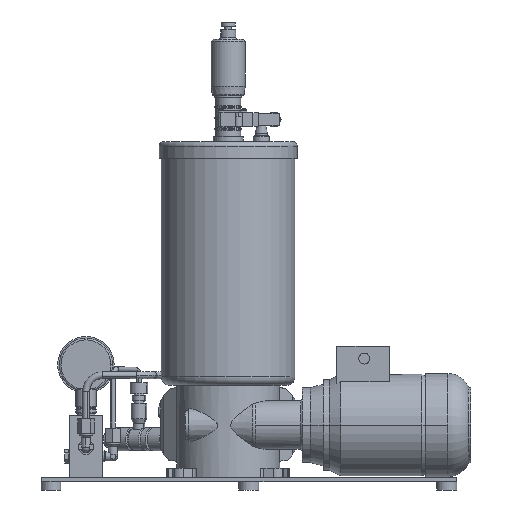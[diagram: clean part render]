
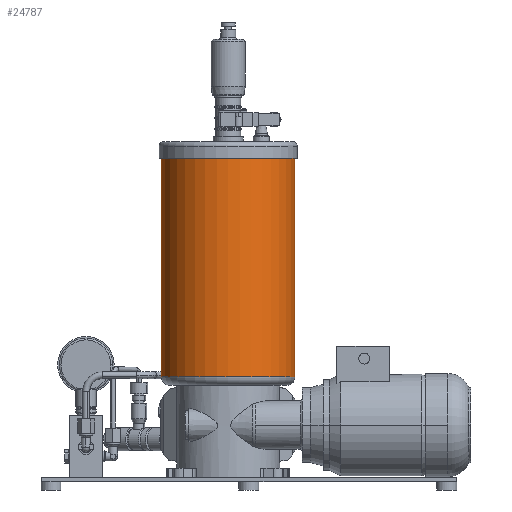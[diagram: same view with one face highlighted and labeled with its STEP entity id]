
A CAD part, left-side view. The second image highlights one B-rep face of the part: STEP entity #24787.
In plain terms, the highlighted cylindrical face has radius 80.351 mm (diameter 160.702 mm), a partial arc.
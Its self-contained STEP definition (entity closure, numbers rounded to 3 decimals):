
#19783=CARTESIAN_POINT('',(-80.351,0.,-208.378));
#19784=VERTEX_POINT('',#19783);
#19801=CARTESIAN_POINT('',(80.351,0.0,-208.378));
#19802=VERTEX_POINT('',#19801);
#19810=CARTESIAN_POINT('',(0.0,0.0,-208.378));
#19811=DIRECTION('',(0.0,0.0,-1.0));
#19812=DIRECTION('',(1.0,0.0,0.0));
#19813=AXIS2_PLACEMENT_3D('',#19810,#19811,#19812);
#19814=CIRCLE('',#19813,80.351);
#19815=EDGE_CURVE('',#19802,#19784,#19814,.T.);
#19825=CARTESIAN_POINT('',(80.351,0.0,54.476));
#19826=VERTEX_POINT('',#19825);
#19827=CARTESIAN_POINT('',(80.351,0.0,-208.378));
#19828=DIRECTION('',(0.0,0.0,1.0));
#19829=VECTOR('',#19828,262.854);
#19830=LINE('',#19827,#19829);
#19831=EDGE_CURVE('',#19802,#19826,#19830,.T.);
#19840=CARTESIAN_POINT('',(-80.351,0.,54.476));
#19841=VERTEX_POINT('',#19840);
#19842=CARTESIAN_POINT('',(-80.351,0.,-208.378));
#19843=DIRECTION('',(0.0,0.0,1.0));
#19844=VECTOR('',#19843,262.854);
#19845=LINE('',#19842,#19844);
#19846=EDGE_CURVE('',#19784,#19841,#19845,.T.);
#24765=CARTESIAN_POINT('',(0.0,0.0,54.476));
#24766=DIRECTION('',(0.0,0.0,-1.0));
#24767=DIRECTION('',(1.0,0.0,0.0));
#24768=AXIS2_PLACEMENT_3D('',#24765,#24766,#24767);
#24769=CIRCLE('',#24768,80.351);
#24770=EDGE_CURVE('',#19826,#19841,#24769,.T.);
#24776=CARTESIAN_POINT('',(0.0,0.0,-76.951));
#24777=DIRECTION('',(0.0,0.0,-1.0));
#24778=DIRECTION('',(1.0,0.0,0.0));
#24779=AXIS2_PLACEMENT_3D('',#24776,#24777,#24778);
#24780=CYLINDRICAL_SURFACE('',#24779,80.351);
#24781=ORIENTED_EDGE('',*,*,#19831,.T.);
#24782=ORIENTED_EDGE('',*,*,#24770,.T.);
#24783=ORIENTED_EDGE('',*,*,#19846,.F.);
#24784=ORIENTED_EDGE('',*,*,#19815,.F.);
#24785=EDGE_LOOP('',(#24781,#24782,#24783,#24784));
#24786=FACE_OUTER_BOUND('',#24785,.T.);
#24787=ADVANCED_FACE('',(#24786),#24780,.T.);
